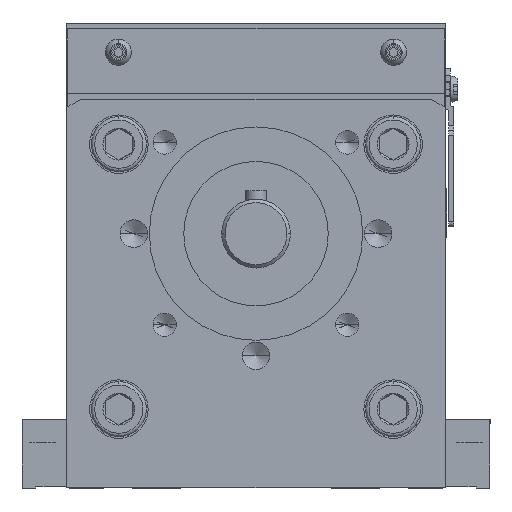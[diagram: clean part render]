
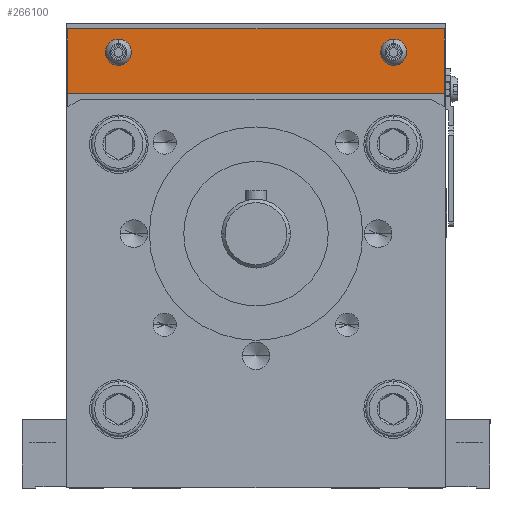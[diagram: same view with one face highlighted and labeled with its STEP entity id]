
A CAD part, front view. The second image highlights one B-rep face of the part: STEP entity #266100.
In plain terms, the highlighted planar face has unit normal (0, -1, 0) as drawn and (0, 0, -1) by its records, which use the part's own axes.
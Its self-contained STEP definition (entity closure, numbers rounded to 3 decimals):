
#265410=CARTESIAN_POINT('',(0.,0.,0.));
#265420=DIRECTION('',(0.,0.,1.));
#265430=DIRECTION('',(1.,0.,0.));
#265440=AXIS2_PLACEMENT_3D('',#265410,#265420,#265430);
#265450=PLANE('',#265440);
#265460=CARTESIAN_POINT('',(94.65,6.8,0.));
#265470=DIRECTION('',(0.,0.,-1.));
#265480=DIRECTION('',(1.,0.,0.));
#265490=AXIS2_PLACEMENT_3D('',#265460,#265470,#265480);
#265500=CIRCLE('',#265490,2.3);
#265510=CARTESIAN_POINT('',(96.95,6.8,0.));
#265520=VERTEX_POINT('',#265510);
#265530=CARTESIAN_POINT('',(92.35,6.8,0.));
#265540=VERTEX_POINT('',#265530);
#265550=EDGE_CURVE('',#265520,#265540,#265500,.T.);
#265560=ORIENTED_EDGE('',*,*,#265550,.F.);
#265570=EDGE_CURVE('',#265540,#265520,#265500,.T.);
#265580=ORIENTED_EDGE('',*,*,#265570,.F.);
#265590=EDGE_LOOP('',(#265580,#265560));
#265600=FACE_BOUND('',#265590,.T.);
#265610=CARTESIAN_POINT('',(14.65,6.8,0.));
#265620=DIRECTION('',(0.,0.,-1.));
#265630=DIRECTION('',(1.,0.,0.));
#265640=AXIS2_PLACEMENT_3D('',#265610,#265620,#265630);
#265650=CIRCLE('',#265640,2.3);
#265660=CARTESIAN_POINT('',(16.95,6.8,0.));
#265670=VERTEX_POINT('',#265660);
#265680=CARTESIAN_POINT('',(12.35,6.8,0.));
#265690=VERTEX_POINT('',#265680);
#265700=EDGE_CURVE('',#265670,#265690,#265650,.T.);
#265710=ORIENTED_EDGE('',*,*,#265700,.F.);
#265720=EDGE_CURVE('',#265690,#265670,#265650,.T.);
#265730=ORIENTED_EDGE('',*,*,#265720,.F.);
#265740=EDGE_LOOP('',(#265730,#265710));
#265750=FACE_BOUND('',#265740,.T.);
#265760=CARTESIAN_POINT('',(0.,0.,0.));
#265770=DIRECTION('',(0.,1.,0.));
#265780=VECTOR('',#265770,1.);
#265790=LINE('',#265760,#265780);
#265800=CARTESIAN_POINT('',(0.,0.,0.));
#265810=VERTEX_POINT('',#265800);
#265820=CARTESIAN_POINT('',(0.,18.8,0.));
#265830=VERTEX_POINT('',#265820);
#265840=EDGE_CURVE('',#265810,#265830,#265790,.T.);
#265850=ORIENTED_EDGE('',*,*,#265840,.T.);
#265860=CARTESIAN_POINT('',(109.3,0.,0.));
#265870=DIRECTION('',(-1.,0.,0.));
#265880=VECTOR('',#265870,1.);
#265890=LINE('',#265860,#265880);
#265900=CARTESIAN_POINT('',(109.3,0.,0.));
#265910=VERTEX_POINT('',#265900);
#265920=EDGE_CURVE('',#265910,#265810,#265890,.T.);
#265930=ORIENTED_EDGE('',*,*,#265920,.T.);
#265940=CARTESIAN_POINT('',(109.3,18.8,0.));
#265950=DIRECTION('',(0.,-1.,0.));
#265960=VECTOR('',#265950,1.);
#265970=LINE('',#265940,#265960);
#265980=CARTESIAN_POINT('',(109.3,18.8,0.));
#265990=VERTEX_POINT('',#265980);
#266000=EDGE_CURVE('',#265990,#265910,#265970,.T.);
#266010=ORIENTED_EDGE('',*,*,#266000,.T.);
#266020=CARTESIAN_POINT('',(0.,18.8,0.));
#266030=DIRECTION('',(1.,0.,0.));
#266040=VECTOR('',#266030,1.);
#266050=LINE('',#266020,#266040);
#266060=EDGE_CURVE('',#265830,#265990,#266050,.T.);
#266070=ORIENTED_EDGE('',*,*,#266060,.T.);
#266080=EDGE_LOOP('',(#266070,#266010,#265930,#265850));
#266090=FACE_OUTER_BOUND('',#266080,.T.);
#266100=ADVANCED_FACE('',(#265600,#265750,#266090),#265450,.F.);
